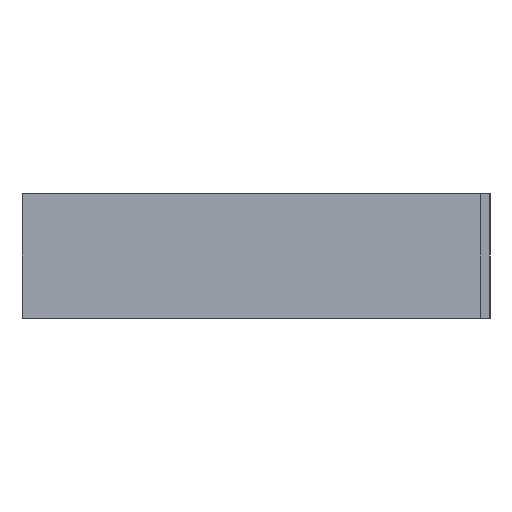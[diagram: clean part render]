
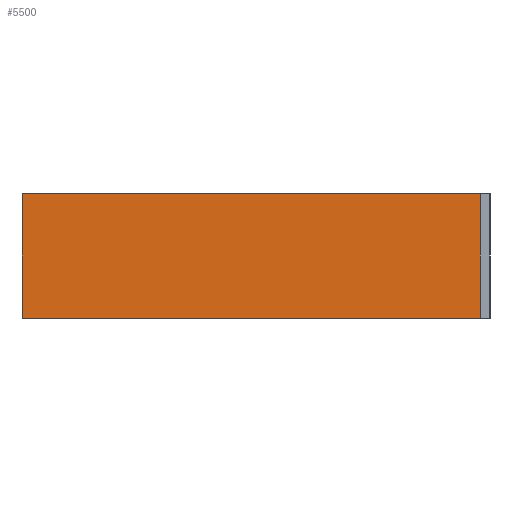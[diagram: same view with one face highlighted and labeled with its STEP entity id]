
A CAD part, left-side view. The second image highlights one B-rep face of the part: STEP entity #5500.
In plain terms, the highlighted planar face has unit normal (-1, 0, 0).
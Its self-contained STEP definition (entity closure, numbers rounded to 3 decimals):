
#9=DIRECTION('',(0.,-1.,0.));
#10=VECTOR('',#9,184.);
#11=CARTESIAN_POINT('',(-125.9,104.2,0.));
#12=LINE('',#11,#10);
#359=DIRECTION('',(0.,-1.,0.));
#360=VECTOR('',#359,184.);
#361=CARTESIAN_POINT('',(-125.9,104.2,-50.));
#362=LINE('',#361,#360);
#2041=DIRECTION('',(0.,0.,1.));
#2042=VECTOR('',#2041,50.);
#2043=CARTESIAN_POINT('',(-125.9,-79.8,-50.));
#2044=LINE('',#2043,#2042);
#2045=DIRECTION('',(0.,0.,-1.));
#2046=VECTOR('',#2045,50.);
#2047=CARTESIAN_POINT('',(-125.9,104.2,0.));
#2048=LINE('',#2047,#2046);
#2085=CARTESIAN_POINT('',(-125.9,-79.8,-50.));
#2086=CARTESIAN_POINT('',(-125.9,-79.8,0.));
#2087=VERTEX_POINT('',#2085);
#2088=VERTEX_POINT('',#2086);
#2193=CARTESIAN_POINT('',(-125.9,104.2,0.));
#2194=CARTESIAN_POINT('',(-125.9,104.2,-50.));
#2195=VERTEX_POINT('',#2193);
#2196=VERTEX_POINT('',#2194);
#5489=CARTESIAN_POINT('',(-125.9,111.2,0.));
#5490=DIRECTION('',(-1.,0.,0.));
#5491=DIRECTION('',(0.,-1.,0.));
#5492=AXIS2_PLACEMENT_3D('',#5489,#5490,#5491);
#5493=PLANE('',#5492);
#5494=ORIENTED_EDGE('',*,*,#2884,.F.);
#5495=ORIENTED_EDGE('',*,*,#2998,.F.);
#5496=ORIENTED_EDGE('',*,*,#5482,.F.);
#5497=ORIENTED_EDGE('',*,*,#2698,.T.);
#5498=EDGE_LOOP('',(#5494,#5495,#5496,#5497));
#5499=FACE_OUTER_BOUND('',#5498,.F.);
#5500=ADVANCED_FACE('',(#5499),#5493,.T.);
#2698=EDGE_CURVE('',#2195,#2088,#12,.T.);
#2884=EDGE_CURVE('',#2087,#2088,#2044,.T.);
#2998=EDGE_CURVE('',#2196,#2087,#362,.T.);
#5482=EDGE_CURVE('',#2195,#2196,#2048,.T.);
